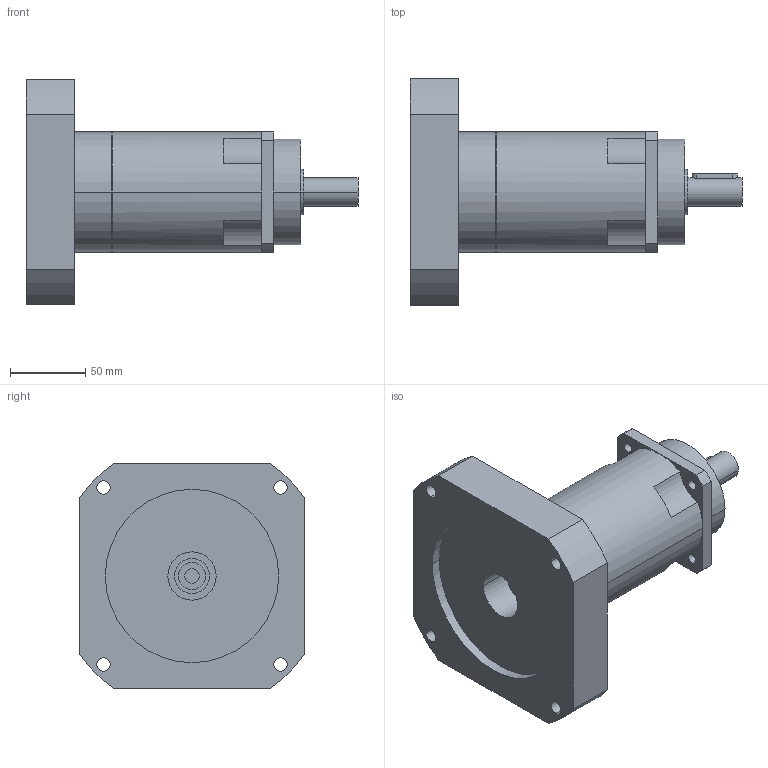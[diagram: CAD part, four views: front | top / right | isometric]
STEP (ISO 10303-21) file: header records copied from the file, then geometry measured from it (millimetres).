
FILE_DESCRIPTION(('CoCreate Modeling STEP Export'),'2;1');
FILE_NAME('GPR100_ig-48-64-80-100-120-144-180-216_19_B5_9.52_P11.stp','2014-08-26T11:57:44',(''),(''),'CoCreate Modeling STEP processor for AP214 (Solid Model)','CoCreate Modeling 16.00C 25-Feb-2009 (C) Parametric Technology GmbH','');
FILE_SCHEMA(('AUTOMOTIVE_DESIGN { 1 0 10303 214 1 1 1 1 }'));
Length unit declared in the file: millimetre
Products named in the file (2): GPR100_ig-48-64-80-100-120-144-180-216_19_B5_9.52_P11
Assembly tree (1 placements, depth 2):
  GPR100_ig-48-64-80-100-120-144-180-216_19_B5_9.52_P11
    GPR100_ig-48-64-80-100-120-144-180-216_19_B5_9.52_P11
Bounding box: 220.4 x 150 x 150 mm (x, y, z)
Volume: 1340505.4 mm3; surface area: 114354.7 mm2
Topology: 1 solids, 1 shells, 89 faces, 245 edges, 167 vertices
Faces by surface type: cylinder 52, plane 31, cone 6
Entity records: 2602 total; most frequent: ORIENTED_EDGE 486, CARTESIAN_POINT 472, DIRECTION 386, EDGE_CURVE 243, VERTEX_POINT 167, AXIS2_PLACEMENT_3D 145, EDGE_LOOP 116, VECTOR 96
